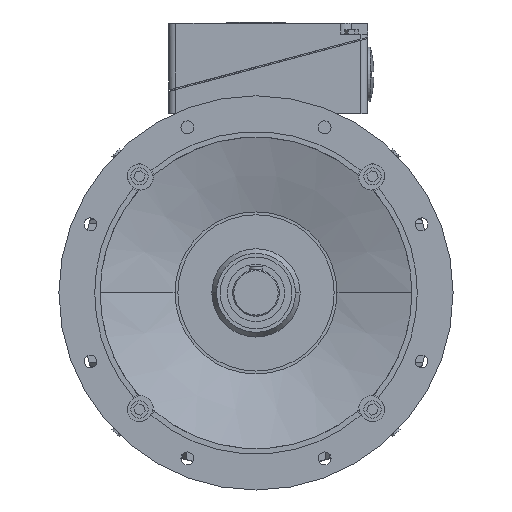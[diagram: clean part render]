
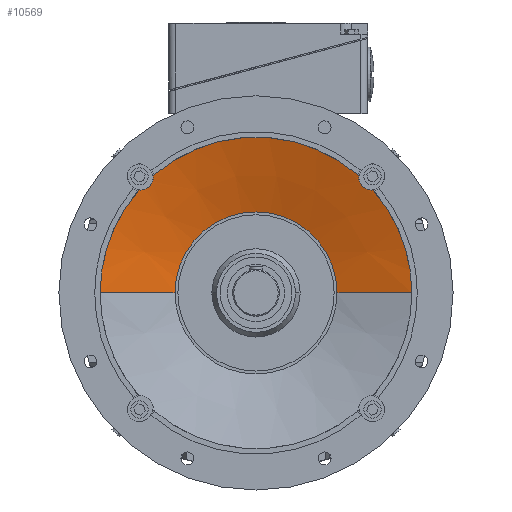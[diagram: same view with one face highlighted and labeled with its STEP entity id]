
A CAD part, front view. The second image highlights one B-rep face of the part: STEP entity #10569.
In plain terms, the highlighted conical face has half-angle 72.474 degrees and reference radius 165.25 mm.
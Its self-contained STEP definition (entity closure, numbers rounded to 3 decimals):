
#4605=EDGE_CURVE('',#10781,#12753,#13243,.T.);
#6909=VERTEX_POINT('',#15770);
#7061=VERTEX_POINT('',#15931);
#8381=VERTEX_POINT('',#17371);
#8417=VERTEX_POINT('',#17412);
#8505=EDGE_CURVE('',#6909,#10107,#17510,.T.);
#9347=EDGE_CURVE('',#10331,#10107,#18424,.T.);
#9591=EDGE_CURVE('',#7061,#10331,#18691,.T.);
#10107=VERTEX_POINT('',#19251);
#10331=VERTEX_POINT('',#19492);
#10569=ADVANCED_FACE('',(#19754),#19755,.F.);
#10781=VERTEX_POINT('',#19982);
#11413=EDGE_CURVE('',#8381,#10781,#20680,.T.);
#11515=EDGE_CURVE('',#12753,#6909,#20790,.T.);
#11831=EDGE_CURVE('',#8417,#8381,#21131,.T.);
#12461=EDGE_CURVE('',#8417,#7061,#21810,.T.);
#12753=VERTEX_POINT('',#22137);
#13243=CIRCLE('',#23008,217.5);
#15770=CARTESIAN_POINT('',(-163.239,-77.5,143.733));
#15931=CARTESIAN_POINT('',(113.0,-44.5,0.));
#17371=CARTESIAN_POINT('',(163.239,-77.5,143.733));
#17412=CARTESIAN_POINT('',(217.5,-77.5,0.));
#17510=CIRCLE('',#32077,217.5);
#18424=LINE('',#33930,#33931);
#18691=CIRCLE('',#34448,113.0);
#19251=CARTESIAN_POINT('',(-217.5,-77.5,0.));
#19492=CARTESIAN_POINT('',(-113.0,-44.5,0.0));
#19754=FACE_OUTER_BOUND('',#36457,.T.);
#19755=CONICAL_SURFACE('',#36458,165.25,1.265);
#19982=CARTESIAN_POINT('',(143.733,-77.5,163.239));
#20680=B_SPLINE_CURVE_WITH_KNOTS('',3,(#38399,#38400,#38401,#38402,#38403,#38404,#38405,#38406,#38407,#38408,#38409,#38410,#38411,#38412,#38413,#38414,#38415,#38416,#38417,#38418,#38419,#38420,#38421,#38422,#38423,#38424,#38425,#38426,#38427,#38428),.UNSPECIFIED.,.F.,.F.,(4,2,2,2,2,2,2,2,2,2,2,2,2,2,4),(2.426,4.853,7.279,9.706,12.022,14.338,16.654,18.97,21.286,23.602,25.918,28.234,30.661,33.087,35.514),.UNSPECIFIED.);
#20790=B_SPLINE_CURVE_WITH_KNOTS('',3,(#38590,#38591,#38592,#38593,#38594,#38595,#38596,#38597,#38598,#38599,#38600,#38601,#38602,#38603,#38604,#38605,#38606,#38607,#38608,#38609,#38610,#38611,#38612,#38613,#38614,#38615,#38616,#38617,#38618,#38619),.UNSPECIFIED.,.F.,.F.,(4,2,2,2,2,2,2,2,2,2,2,2,2,2,4),(2.426,4.853,7.279,9.705,12.021,14.337,16.653,18.969,21.285,23.601,25.917,28.233,30.659,33.086,35.512),.UNSPECIFIED.);
#21131=CIRCLE('',#39378,217.5);
#21810=LINE('',#40831,#40832);
#22137=CARTESIAN_POINT('',(-143.733,-77.5,163.239));
#23008=AXIS2_PLACEMENT_3D('',#42194,#42195,#42196);
#32077=AXIS2_PLACEMENT_3D('',#46968,#46969,#46970);
#33930=CARTESIAN_POINT('',(-165.25,-61.0,0.));
#33931=VECTOR('',#47930,1.0);
#34448=AXIS2_PLACEMENT_3D('',#48197,#48198,#48199);
#36457=EDGE_LOOP('',(#49292,#49293,#49294,#49295,#49296,#49297,#49298,#49299));
#36458=AXIS2_PLACEMENT_3D('',#49300,#49301,#49302);
#38399=CARTESIAN_POINT('',(164.336,-77.805,143.949));
#38400=CARTESIAN_POINT('',(163.531,-77.575,143.763));
#38401=CARTESIAN_POINT('',(162.694,-77.35,143.632));
#38402=CARTESIAN_POINT('',(161.006,-76.923,143.499));
#38403=CARTESIAN_POINT('',(160.154,-76.722,143.496));
#38404=CARTESIAN_POINT('',(158.484,-76.355,143.614));
#38405=CARTESIAN_POINT('',(157.665,-76.189,143.735));
#38406=CARTESIAN_POINT('',(156.145,-75.906,144.066));
#38407=CARTESIAN_POINT('',(155.381,-75.776,144.286));
#38408=CARTESIAN_POINT('',(153.861,-75.546,144.848));
#38409=CARTESIAN_POINT('',(153.105,-75.447,145.19));
#38410=CARTESIAN_POINT('',(151.65,-75.288,145.983));
#38411=CARTESIAN_POINT('',(150.95,-75.228,146.434));
#38412=CARTESIAN_POINT('',(149.644,-75.15,147.416));
#38413=CARTESIAN_POINT('',(149.038,-75.132,147.947));
#38414=CARTESIAN_POINT('',(147.947,-75.132,149.038));
#38415=CARTESIAN_POINT('',(147.416,-75.15,149.644));
#38416=CARTESIAN_POINT('',(146.434,-75.228,150.95));
#38417=CARTESIAN_POINT('',(145.983,-75.288,151.65));
#38418=CARTESIAN_POINT('',(145.19,-75.447,153.105));
#38419=CARTESIAN_POINT('',(144.848,-75.546,153.861));
#38420=CARTESIAN_POINT('',(144.286,-75.776,155.381));
#38421=CARTESIAN_POINT('',(144.066,-75.906,156.145));
#38422=CARTESIAN_POINT('',(143.735,-76.189,157.665));
#38423=CARTESIAN_POINT('',(143.614,-76.355,158.484));
#38424=CARTESIAN_POINT('',(143.496,-76.722,160.154));
#38425=CARTESIAN_POINT('',(143.499,-76.923,161.006));
#38426=CARTESIAN_POINT('',(143.632,-77.35,162.694));
#38427=CARTESIAN_POINT('',(143.763,-77.575,163.531));
#38428=CARTESIAN_POINT('',(143.949,-77.805,164.336));
#38590=CARTESIAN_POINT('',(-143.949,-77.805,164.335));
#38591=CARTESIAN_POINT('',(-143.763,-77.575,163.53));
#38592=CARTESIAN_POINT('',(-143.632,-77.349,162.693));
#38593=CARTESIAN_POINT('',(-143.499,-76.923,161.006));
#38594=CARTESIAN_POINT('',(-143.496,-76.722,160.154));
#38595=CARTESIAN_POINT('',(-143.614,-76.355,158.483));
#38596=CARTESIAN_POINT('',(-143.735,-76.189,157.664));
#38597=CARTESIAN_POINT('',(-144.066,-75.906,156.145));
#38598=CARTESIAN_POINT('',(-144.286,-75.776,155.38));
#38599=CARTESIAN_POINT('',(-144.848,-75.546,153.86));
#38600=CARTESIAN_POINT('',(-145.19,-75.447,153.105));
#38601=CARTESIAN_POINT('',(-145.983,-75.288,151.65));
#38602=CARTESIAN_POINT('',(-146.434,-75.228,150.95));
#38603=CARTESIAN_POINT('',(-147.416,-75.15,149.644));
#38604=CARTESIAN_POINT('',(-147.947,-75.132,149.038));
#38605=CARTESIAN_POINT('',(-149.038,-75.132,147.947));
#38606=CARTESIAN_POINT('',(-149.644,-75.15,147.416));
#38607=CARTESIAN_POINT('',(-150.95,-75.228,146.434));
#38608=CARTESIAN_POINT('',(-151.65,-75.288,145.983));
#38609=CARTESIAN_POINT('',(-153.105,-75.447,145.19));
#38610=CARTESIAN_POINT('',(-153.86,-75.546,144.848));
#38611=CARTESIAN_POINT('',(-155.38,-75.776,144.286));
#38612=CARTESIAN_POINT('',(-156.145,-75.906,144.066));
#38613=CARTESIAN_POINT('',(-157.664,-76.189,143.735));
#38614=CARTESIAN_POINT('',(-158.483,-76.355,143.614));
#38615=CARTESIAN_POINT('',(-160.154,-76.722,143.496));
#38616=CARTESIAN_POINT('',(-161.006,-76.923,143.499));
#38617=CARTESIAN_POINT('',(-162.693,-77.349,143.632));
#38618=CARTESIAN_POINT('',(-163.53,-77.575,143.763));
#38619=CARTESIAN_POINT('',(-164.335,-77.805,143.949));
#39378=AXIS2_PLACEMENT_3D('',#50675,#50676,#50677);
#40831=CARTESIAN_POINT('',(165.25,-61.0,0.));
#40832=VECTOR('',#51318,1.0);
#42194=CARTESIAN_POINT('',(0.0,-77.5,0.0));
#42195=DIRECTION('',(0.0,-1.0,0.0));
#42196=DIRECTION('',(-1.0,0.0,0.0));
#46968=CARTESIAN_POINT('',(0.0,-77.5,0.0));
#46969=DIRECTION('',(0.0,-1.0,0.0));
#46970=DIRECTION('',(-1.0,0.0,0.0));
#47930=DIRECTION('',(-0.954,-0.301,0.));
#48197=CARTESIAN_POINT('',(0.0,-44.5,0.0));
#48198=DIRECTION('',(0.0,-1.0,0.0));
#48199=DIRECTION('',(-1.0,0.0,0.0));
#49292=ORIENTED_EDGE('',*,*,#9347,.F.);
#49293=ORIENTED_EDGE('',*,*,#9591,.F.);
#49294=ORIENTED_EDGE('',*,*,#12461,.F.);
#49295=ORIENTED_EDGE('',*,*,#11831,.T.);
#49296=ORIENTED_EDGE('',*,*,#11413,.T.);
#49297=ORIENTED_EDGE('',*,*,#4605,.T.);
#49298=ORIENTED_EDGE('',*,*,#11515,.T.);
#49299=ORIENTED_EDGE('',*,*,#8505,.T.);
#49300=CARTESIAN_POINT('',(0.0,-61.0,0.0));
#49301=DIRECTION('',(-0.0,-1.0,0.0));
#49302=DIRECTION('',(-1.0,0.0,0.0));
#50675=CARTESIAN_POINT('',(0.0,-77.5,0.0));
#50676=DIRECTION('',(0.0,-1.0,0.0));
#50677=DIRECTION('',(-1.0,0.0,0.0));
#51318=DIRECTION('',(-0.954,0.301,0.));
